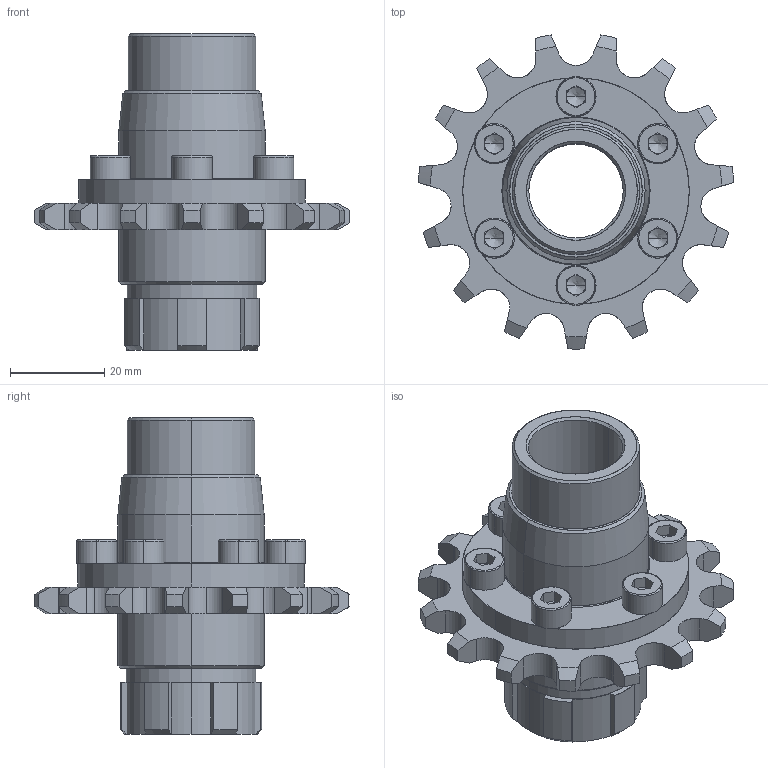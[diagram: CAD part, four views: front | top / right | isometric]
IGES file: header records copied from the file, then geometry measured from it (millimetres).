
Start section: SolidWorks IGES file using analytic representation for surfaces
Bounding box: 66.9 x 66.58 x 67.1 mm (x, y, z)
Surface area: 23082.8 mm2 (no closed solid volume)
Topology: 0 solids, 0 shells, 362 faces, 4646 edges, 4634 vertices
Faces by surface type: revolution 191, bspline 171
